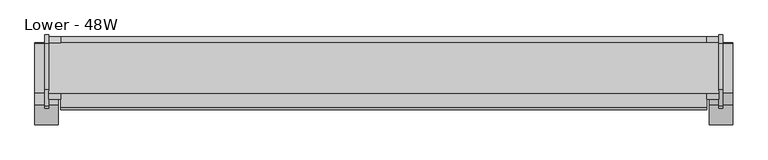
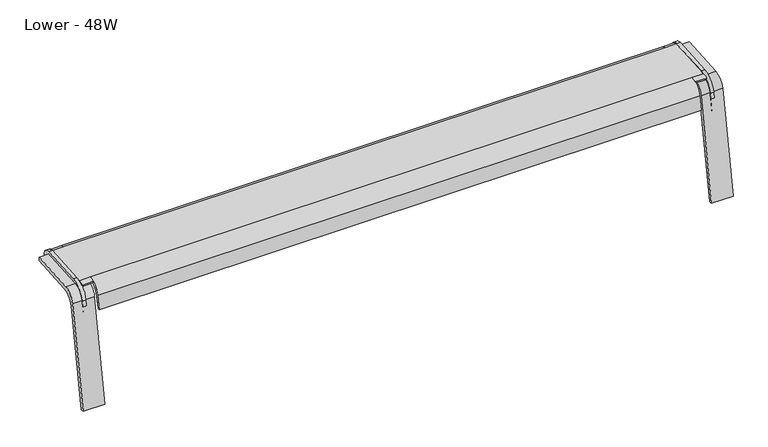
"""IFC4 building model written with IfcOpenShell, lengths in millimetres: furniture geometry, Steelcase Turnstone - Bivi - Accessories - Footshelf : Lower - 48W."""

from ifc_helpers import new_model, si_unit, point, frame, frame_2d, origin, place, context, project, spatial, polyline, circle_curve, trimmed, segment, composite_curve, outline, extrude, source, transform, mapped, element, save
from ifc_brep_helpers import plane_surface, cylinder_surface, revolved_surface, advanced_brep


def lower_48w_d15a52aa(model_context):
    return source(origin(), model_context, "Body", "SolidModel", [
        advanced_brep(
        [(3.8089258, -349.7007928, 225.2598813), (3.8089258, -347.9860524, 241.5745471), (3.8089258, -355.8408855, 249.7457315), (3.8089258, -443.2925363, 244.0318234), (3.8089258, -454.2428859, 240.8854416), (3.8089258, -456.4013878, 245.1785525), (3.8089258, -445.8509343, 248.0480858), (3.8089258, -354.5223353, 254.0153056), (3.8089258, -343.7814901, 242.8418758), (3.8089258, -345.6739167, 224.8366396), (1215.3910742, -345.6739167, 224.8366396), (1215.3910742, -349.7007928, 225.2598813), (25.4029566, -343.7814901, 242.8418758), (1193.7970434, -343.7814901, 242.8418758), (1215.3910742, -343.7814901, 242.8418758), (25.4029566, -354.5223353, 254.0153056), (25.4029566, -445.8509343, 248.0480858), (1193.7970434, -445.8509343, 248.0480858), (1215.3910742, -445.8509343, 248.0480858), (1215.3910742, -354.5223353, 254.0153056), (1193.7970434, -354.5223353, 254.0153056), (25.4029566, -456.4013878, 245.1785525), (25.4029566, -443.2925363, 244.0318234), (25.4029566, -454.2428859, 240.8854416), (25.4029566, -355.8408855, 249.7457315), (1193.7970434, -355.8408855, 249.7457315), (1215.3910742, -355.8408855, 249.7457315), (1215.3910742, -443.2925363, 244.0318234), (1193.7970434, -443.2925363, 244.0318234), (25.4029566, -347.9860524, 241.5745471), (1215.3910742, -347.9860524, 241.5745471), (1193.7970434, -347.9860524, 241.5745471), (1215.3910742, -456.4013878, 245.1785525), (1215.3910742, -454.2428859, 240.8854416), (1193.7970434, -456.4013878, 245.1785525), (1193.7970434, -454.2428859, 240.8854416), (1193.7970434, -471.1171503, 225.402562), (1193.7970434, -475.8257425, 198.6988086), (1193.7970434, -472.1069682, 198.1098126), (1193.7970434, -467.8983227, 221.9782273), (25.4029566, -467.8983227, 221.9782273), (25.4029566, -472.1069682, 198.1098126), (25.4029566, -475.8257425, 198.6988086), (25.4029566, -471.1171503, 225.402562)],
        [
            (0, 1),
            (1, 2, circle_curve(frame((3.8089258, -355.3576201, 242.3493301), z_axis=(1.0, 0.0, 0.0), x_axis=(0.0, 1.0, 0.0)), 7.4121724)),
            (2, 3),
            (3, 4, circle_curve(frame((3.8089258, -441.5480229, 217.3319585), z_axis=(1.0, 0.0, 0.0), x_axis=(0.0, 1.0, 0.0)), 26.7567957)),
            (4, 5),
            (5, 6, circle_curve(frame((3.8089258, -444.0595974, 220.6315854), z_axis=(-1.0, 0.0, 0.0), x_axis=(0.0, 1.0, 0.0)), 27.4749592)),
            (6, 7),
            (7, 8, circle_curve(frame((3.8089258, -353.8615092, 243.9013285), z_axis=(-1.0, 0.0, 0.0), x_axis=(0.0, 1.0, 0.0)), 10.1355426)),
            (8, 9),
            (9, 0),
            (9, 10),
            (10, 11),
            (11, 0),
            (8, 12),
            (12, 13),
            (13, 14),
            (14, 10),
            (7, 15),
            (15, 12, circle_curve(frame((25.4029566, -353.8615092, 243.9013285), z_axis=(-1.0, 0.0, 0.0), x_axis=(0.0, 1.0, 0.0)), 10.1355426)),
            (6, 16),
            (16, 17),
            (17, 18),
            (18, 19),
            (19, 20),
            (20, 15),
            (5, 21),
            (21, 16, circle_curve(frame((25.4029566, -444.0595974, 220.6315854), z_axis=(-1.0, 0.0, 0.0), x_axis=(0.0, 1.0, 0.0)), 27.4749592)),
            (3, 22),
            (22, 23, circle_curve(frame((25.4029566, -441.5480229, 217.3319585), z_axis=(1.0, 0.0, 0.0), x_axis=(0.0, 1.0, 0.0)), 26.7567957)),
            (23, 4),
            (2, 24),
            (24, 25),
            (25, 26),
            (26, 27),
            (27, 28),
            (28, 22),
            (1, 29),
            (29, 24, circle_curve(frame((25.4029566, -355.3576201, 242.3493301), z_axis=(1.0, 0.0, 0.0), x_axis=(0.0, 1.0, 0.0)), 7.4121724)),
            (11, 30),
            (30, 31),
            (31, 29),
            (23, 21),
            (14, 19, circle_curve(frame((1215.3910742, -353.8615092, 243.9013285), z_axis=(1.0, 0.0, 0.0), x_axis=(0.0, 1.0, 0.0)), 10.1355426)),
            (18, 32, circle_curve(frame((1215.3910742, -444.0595974, 220.6315854), z_axis=(1.0, 0.0, 0.0), x_axis=(0.0, 1.0, 0.0)), 27.4749592)),
            (32, 33),
            (33, 27, circle_curve(frame((1215.3910742, -441.5480229, 217.3319585), z_axis=(-1.0, 0.0, 0.0), x_axis=(0.0, 1.0, 0.0)), 26.7567957)),
            (26, 30, circle_curve(frame((1215.3910742, -355.3576201, 242.3493301), z_axis=(-1.0, 0.0, 0.0), x_axis=(0.0, 1.0, 0.0)), 7.4121724)),
            (13, 20, circle_curve(frame((1193.7970434, -353.8615092, 243.9013285), z_axis=(1.0, 0.0, 0.0), x_axis=(0.0, 1.0, 0.0)), 10.1355426)),
            (17, 34, circle_curve(frame((1193.7970434, -444.0595974, 220.6315854), z_axis=(1.0, 0.0, 0.0), x_axis=(0.0, 1.0, 0.0)), 27.4749592)),
            (34, 32),
            (33, 35),
            (35, 28, circle_curve(frame((1193.7970434, -441.5480229, 217.3319585), z_axis=(-1.0, 0.0, 0.0), x_axis=(0.0, 1.0, 0.0)), 26.7567957)),
            (25, 31, circle_curve(frame((1193.7970434, -355.3576201, 242.3493301), z_axis=(-1.0, 0.0, 0.0), x_axis=(0.0, 1.0, 0.0)), 7.4121724)),
            (34, 35),
            (36, 37),
            (37, 38),
            (38, 39),
            (39, 35, circle_curve(frame((1193.7970434, -441.5480229, 217.3319585), z_axis=(-1.0, 0.0, 0.0), x_axis=(0.0, 1.0, 0.0)), 26.7567957)),
            (34, 36, circle_curve(frame((1193.7970434, -444.0595974, 220.6315854), z_axis=(1.0, 0.0, 0.0), x_axis=(0.0, 1.0, 0.0)), 27.4749592)),
            (40, 41),
            (41, 42),
            (42, 43),
            (43, 21, circle_curve(frame((25.4029566, -444.0595974, 220.6315854), z_axis=(-1.0, 0.0, 0.0), x_axis=(0.0, 1.0, 0.0)), 27.4749592)),
            (23, 40, circle_curve(frame((25.4029566, -441.5480229, 217.3319585), z_axis=(1.0, 0.0, 0.0), x_axis=(0.0, 1.0, 0.0)), 26.7567957)),
            (43, 36),
            (42, 37),
            (41, 38),
            (40, 39),
        ],
        [
            plane_surface(frame((3.8089258, -345.6739167, 224.8366396), z_axis=(-1.0, 0.0, 0.0), x_axis=(0.0, -0.9945218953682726, 0.10452846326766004))),
            plane_surface(frame((25.4029566, -349.7007928, 225.2598813), z_axis=(0.0, -0.10452846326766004, -0.9945218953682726), x_axis=(-1.0, 0.0, 0.0))),
            plane_surface(frame((25.4029566, -345.6739167, 224.8366396), z_axis=(0.0, 0.9945218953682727, -0.1045284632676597), x_axis=(-1.0, 0.0, 0.0))),
            cylinder_surface(frame((3.8089258, -353.8615092, 243.9013285), z_axis=(1.0, 0.0, 0.0), x_axis=(0.0, 1.0, 0.0)), 10.1355426),
            plane_surface(frame((25.4029566, -354.5223353, 254.0153056), z_axis=(0.0, -0.06519889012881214, 0.9978722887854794), x_axis=(-1.0, 0.0, 0.0))),
            cylinder_surface(frame((3.8089258, -444.0595974, 220.6315854), z_axis=(1.0, 0.0, 0.0), x_axis=(0.0, 1.0, 0.0)), 27.4749592),
            revolved_surface(polyline([(3.8089258, -414.7912272, 217.3319585), (25.4029566, -414.7912272, 217.3319585)]), (3.8089258, -441.5480229, 217.3319585), (-1.0, 0.0, 0.0)),
            plane_surface(frame((25.4029566, -443.2925363, 244.0318234), z_axis=(0.0, 0.065198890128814, -0.9978722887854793), x_axis=(-1.0, 0.0, 0.0))),
            revolved_surface(polyline([(3.8089258, -347.94544770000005, 242.3493301), (25.4029566, -347.94544770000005, 242.3493301)]), (3.8089258, -355.3576201, 242.3493301), (-1.0, 0.0, 0.0)),
            plane_surface(frame((25.4029566, -347.9860524, 241.5745471), z_axis=(0.0, -0.9945218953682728, 0.10452846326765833), x_axis=(-1.0, 0.0, 0.0))),
            plane_surface(frame((25.4029566, -456.4013878, 245.1785525), z_axis=(0.0, -0.8934305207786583, -0.44920140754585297), x_axis=(-1.0, 0.0, 0.0))),
            plane_surface(frame((1215.3910742, -349.7007928, 225.2598813), z_axis=(1.0, 0.0, 0.0), x_axis=(0.0, -0.10452846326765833, -0.9945218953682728))),
            cylinder_surface(frame((1215.3910742, -353.8615092, 243.9013285), z_axis=(-1.0, 0.0, 0.0), x_axis=(0.0, 1.0, 0.0)), 10.1355426),
            cylinder_surface(frame((1215.3910742, -444.0595974, 220.6315854), z_axis=(-1.0, 0.0, 0.0), x_axis=(0.0, 1.0, 0.0)), 27.4749592),
            revolved_surface(polyline([(1215.3910742, -414.7912272, 217.3319585), (1193.7970434, -414.7912272, 217.3319585)]), (1215.3910742, -441.5480229, 217.3319585), (1.0, 0.0, 0.0)),
            revolved_surface(polyline([(1215.3910742, -347.94544770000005, 242.3493301), (1193.7970434, -347.94544770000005, 242.3493301)]), (1215.3910742, -355.3576201, 242.3493301), (1.0, 0.0, 0.0)),
            plane_surface(frame((1193.7970434, -454.2428859, 240.8854416), z_axis=(0.0, -0.8934305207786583, -0.44920140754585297), x_axis=(1.0, 0.0, 0.0))),
            plane_surface(frame((1193.7970434, -345.6739167, 224.8366396), z_axis=(1.0, 0.0, 0.0), x_axis=(0.0, 0.9945218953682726, -0.10452846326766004))),
            plane_surface(frame((25.4029566, -345.6739167, 224.8366396), z_axis=(-1.0, 0.0, 0.0), x_axis=(0.0, -0.9945218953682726, 0.10452846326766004))),
            cylinder_surface(frame((25.4029566, -353.8615092, 243.9013285), z_axis=(1.0, 0.0, 0.0), x_axis=(0.0, 1.0, 0.0)), 10.1355426),
            cylinder_surface(frame((25.4029566, -444.0595974, 220.6315854), z_axis=(1.0, 0.0, 0.0), x_axis=(0.0, 1.0, 0.0)), 27.4749592),
            plane_surface(frame((1193.7970434, -471.1171503, 225.402562), z_axis=(0.0, -0.9848077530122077, 0.173648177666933), x_axis=(-1.0, 0.0, 0.0))),
            plane_surface(frame((1193.7970434, -475.8257425, 198.6988086), z_axis=(0.0, -0.15643446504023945, -0.9876883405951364), x_axis=(-1.0, 0.0, 0.0))),
            plane_surface(frame((1193.7970434, -472.1069682, 198.1098126), z_axis=(0.0, 0.9848077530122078, -0.17364817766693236), x_axis=(-1.0, 0.0, 0.0))),
            revolved_surface(polyline([(25.4029566, -414.7912272, 217.3319585), (1193.7970434, -414.7912272, 217.3319585)]), (25.4029566, -441.5480229, 217.3319585), (-1.0, 0.0, 0.0)),
            revolved_surface(polyline([(25.4029566, -347.94544770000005, 242.3493301), (1193.7970434, -347.94544770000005, 242.3493301)]), (25.4029566, -355.3576201, 242.3493301), (-1.0, 0.0, 0.0)),
        ],
        [
            (0, [[1, 2, 3, 4, 5, 6, 7, 8, 9, 10]]),
            (1, [[-10, 11, 12, 13]]),
            (2, [[-11, -9, 14, 15, 16, 17]]),
            (3, [[-8, 18, 19, -14]]),
            (4, [[-7, 20, 21, 22, 23, 24, 25, -18]]),
            (5, [[-6, 26, 27, -20]]),
            (6, [[-4, 28, 29, 30]]),
            (7, [[-3, 31, 32, 33, 34, 35, 36, -28]]),
            (8, [[-2, 37, 38, -31]]),
            (9, [[-1, -13, 39, 40, 41, -37]]),
            (10, [[-5, -30, 42, -26]]),
            (11, [[-12, -17, 43, -23, 44, 45, 46, -34, 47, -39]]),
            (12, [[-43, -16, 48, -24]]),
            (13, [[-44, -22, 49, 50]]),
            (14, [[-46, 51, 52, -35]]),
            (15, [[-47, -33, 53, -40]]),
            (16, [[-45, -50, 54, -51]]),
            (17, [[55, 56, 57, 58, -54, 59]]),
            (18, [[60, 61, 62, 63, -42, 64]]),
            (19, [[-15, -19, -25, -48]]),
            (20, [[-21, -27, -63, 65, -59, -49]]),
            (21, [[-55, -65, -62, 66]]),
            (22, [[-56, -66, -61, 67]]),
            (23, [[-57, -67, -60, 68]]),
            (24, [[-68, -64, -29, -36, -52, -58]]),
            (25, [[-32, -38, -41, -53]]),
        ],
    ),
        extrude(outline(composite_curve([segment(polyline([(-502.7882548, 23.0795006), (-467.6286114, 222.4797472)]), True, "CONTINUOUS"), segment(trimmed(circle_curve(frame_2d((-442.6144944, 218.0690835)), 25.4), [point((-467.6286114, 222.4797472))], [point((-444.3863089, 243.4072104))], False, "CARTESIAN"), True, "CONTINUOUS"), segment(polyline([(-444.3863089, 243.4072104), (-355.0660173, 249.6530936), (-354.5108168, 241.713356), (-439.4422182, 235.7743738)]), True, "CONTINUOUS"), segment(trimmed(circle_curve(frame_2d((-437.6704038, 210.4362469)), 25.4), [point((-439.4422182, 235.7743738))], [point((-462.6845207, 214.8469107))], True, "CARTESIAN"), True, "CONTINUOUS"), segment(polyline([(-462.6845207, 214.8469107), (-496.6879548, 22.0038531), (-502.7882548, 23.0795006)]), True, "CONTINUOUS")], self_intersect=False)), frame((1198.2432837, 0.0, 0.0), z_axis=(1.0, 0.0, 0.0), x_axis=(0.0, 1.0, 0.0)), (0.0, 0.0, 1.0), 41.9137207),
        extrude(outline(composite_curve([segment(polyline([(-351.0134455, 227.2247298), (-438.2310578, 205.4789367)]), True, "CONTINUOUS"), segment(trimmed(circle_curve(frame_2d((-425.8853939, 155.9631832)), 51.0316105), [point((-438.2310578, 205.4789367))], [point((-467.9594758, 184.8421876))], True, "CARTESIAN"), True, "CONTINUOUS"), segment(polyline([(-467.9594758, 184.8421876), (-474.2083536, 184.8421876), (-468.3520154, 221.8176516)]), True, "CONTINUOUS"), segment(trimmed(circle_curve(frame_2d((-436.025868, 216.6976929)), 32.7290969), [point((-468.3520154, 221.8176516))], [point((-438.3089344, 249.3470633))], False, "CARTESIAN"), True, "CONTINUOUS"), segment(polyline([(-438.3089344, 249.3470633), (-355.4351327, 255.142164)]), True, "CONTINUOUS"), segment(trimmed(circle_curve(frame_2d((-354.4455186, 240.9900232)), 14.1866989), [point((-355.4351327, 255.142164))], [point((-351.0134455, 227.2247298))], False, "CARTESIAN"), True, "CONTINUOUS")], self_intersect=False)), frame((1215.3910742, 0.0, 0.0), z_axis=(1.0, 0.0, 0.0), x_axis=(0.0, 1.0, 0.0)), (0.0, 0.0, 1.0), 6.8553955),
        extrude(outline(composite_curve([segment(polyline([(-502.7882548, 23.0795006), (-467.6286114, 222.4797472)]), True, "CONTINUOUS"), segment(trimmed(circle_curve(frame_2d((-442.6144944, 218.0690835)), 25.4), [point((-467.6286114, 222.4797472))], [point((-444.3863089, 243.4072104))], False, "CARTESIAN"), True, "CONTINUOUS"), segment(polyline([(-444.3863089, 243.4072104), (-355.0660173, 249.6530936), (-354.5108168, 241.713356), (-439.4422182, 235.7743738)]), True, "CONTINUOUS"), segment(trimmed(circle_curve(frame_2d((-437.6704038, 210.4362469)), 25.4), [point((-439.4422182, 235.7743738))], [point((-462.6845207, 214.8469107))], True, "CARTESIAN"), True, "CONTINUOUS"), segment(polyline([(-462.6845207, 214.8469107), (-496.6879548, 22.0038531), (-502.7882548, 23.0795006)]), True, "CONTINUOUS")], self_intersect=False)), frame((-20.9570044, 0.0, 0.0), z_axis=(1.0, 0.0, 0.0), x_axis=(0.0, 1.0, 0.0)), (0.0, 0.0, 1.0), 41.9137207),
        extrude(outline(composite_curve([segment(polyline([(-351.0134455, 227.2247298), (-438.2310578, 205.4789367)]), True, "CONTINUOUS"), segment(trimmed(circle_curve(frame_2d((-425.8853939, 155.9631832)), 51.0316105), [point((-438.2310578, 205.4789367))], [point((-467.9594758, 184.8421876))], True, "CARTESIAN"), True, "CONTINUOUS"), segment(polyline([(-467.9594758, 184.8421876), (-474.2083536, 184.8421876), (-468.3520154, 221.8176516)]), True, "CONTINUOUS"), segment(trimmed(circle_curve(frame_2d((-436.025868, 216.6976929)), 32.7290969), [point((-468.3520154, 221.8176516))], [point((-438.3089344, 249.3470633))], False, "CARTESIAN"), True, "CONTINUOUS"), segment(polyline([(-438.3089344, 249.3470633), (-355.4351327, 255.142164)]), True, "CONTINUOUS"), segment(trimmed(circle_curve(frame_2d((-354.4455186, 240.9900232)), 14.1866989), [point((-355.4351327, 255.142164))], [point((-351.0134455, 227.2247298))], False, "CARTESIAN"), True, "CONTINUOUS")], self_intersect=False)), frame((-3.0464697, 0.0, 0.0), z_axis=(1.0, 0.0, 0.0), x_axis=(0.0, 1.0, 0.0)), (0.0, 0.0, 1.0), 6.8553955),
    ])


if __name__ == "__main__":
    model = new_model("IFC4")
    model_context = context("Model", 3, world=origin())
    ifc_project = project(units=[si_unit("LENGTHUNIT", "METRE", prefix="MILLI")], contexts=[model_context])
    site = spatial("IfcSite", under=ifc_project)
    building = spatial("IfcBuilding", under=site)
    placement = place(None, origin())
    lower_48w_shape = lower_48w_d15a52aa(model_context)
    element("IfcFurniture", 1, ObjectType="Steelcase Turnstone - Bivi - Accessories - Footshelf : Lower - 48W", at=placement, inside=building, context=model_context, shape_type="MappedRepresentation", body=[
        mapped(lower_48w_shape, transform((0.0, 0.0, 0.0), x_axis=(1.0, 0.0, 0.0), y_axis=(0.0, 1.0, 0.0), z_axis=(0.0, 0.0, 1.0))),
    ])
    save(model, "model.ifc")
